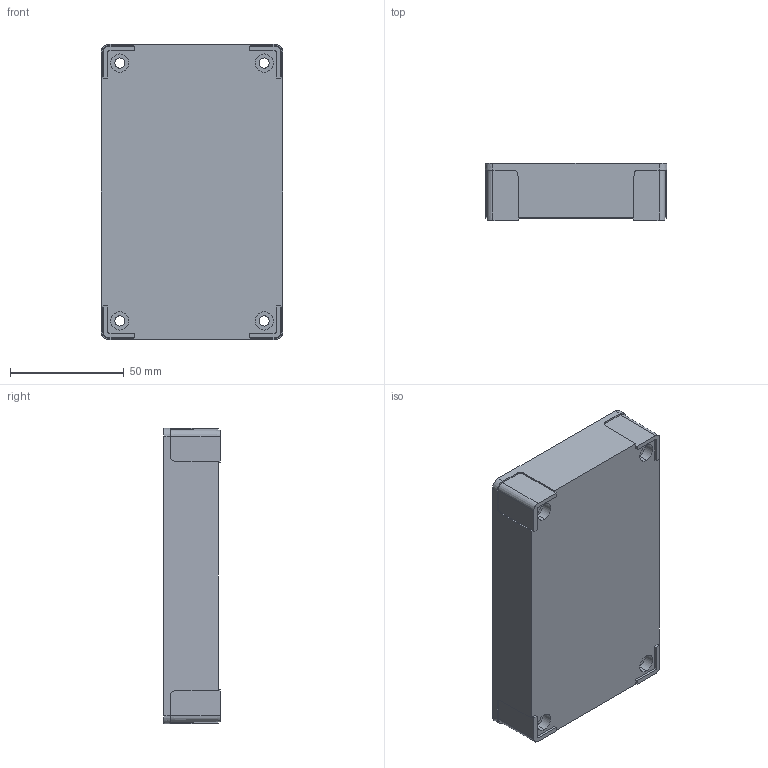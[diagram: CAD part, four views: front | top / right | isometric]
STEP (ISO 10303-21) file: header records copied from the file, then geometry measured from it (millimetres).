
FILE_DESCRIPTION (( 'STEP AP203' ), '1' );
FILE_NAME ('FIBOX_MNX100LB.STEP', '2005-06-30T07:01:39', ( ' ' ), ( ' ' ), 'SwSTEP 2.0', 'SolidWorks 2005143', '' );
FILE_SCHEMA (( 'CONFIG_CONTROL_DESIGN' ));
Length unit declared in the file: millimetre
Products named in the file (1): FIBOX_MNX100LB
Bounding box: 80.1 x 25 x 130.1 mm (x, y, z)
Volume: 74614.4 mm3; surface area: 42156.8 mm2
Topology: 1 solids, 1 shells, 266 faces, 669 edges, 446 vertices
Faces by surface type: plane 154, cylinder 92, cone 20
Entity records: 8118 total; most frequent: CARTESIAN_POINT 1478, DIRECTION 1387, ORIENTED_EDGE 1338, EDGE_CURVE 669, AXIS2_PLACEMENT_3D 483, VERTEX_POINT 446, VECTOR 421, LINE 421
